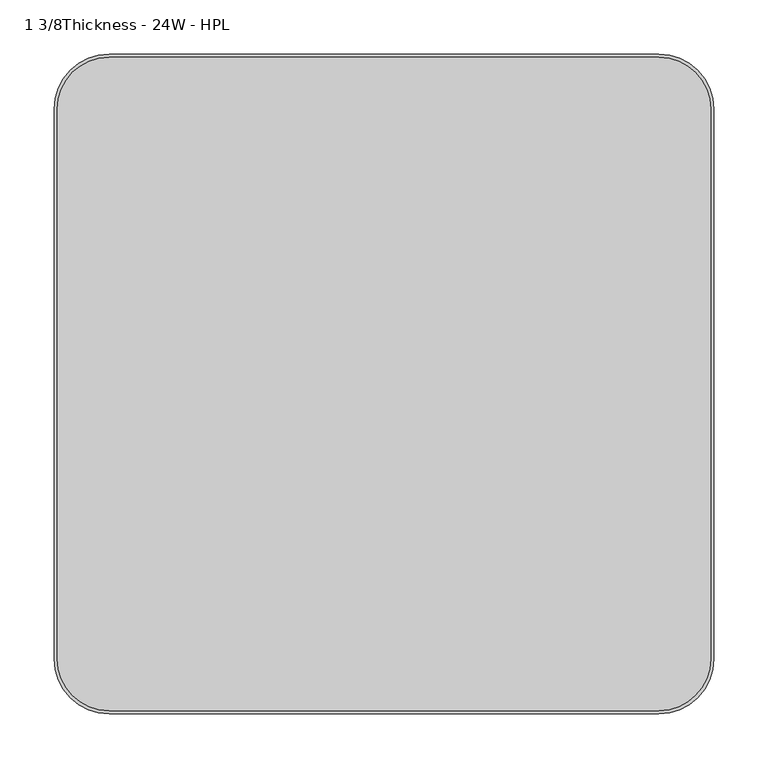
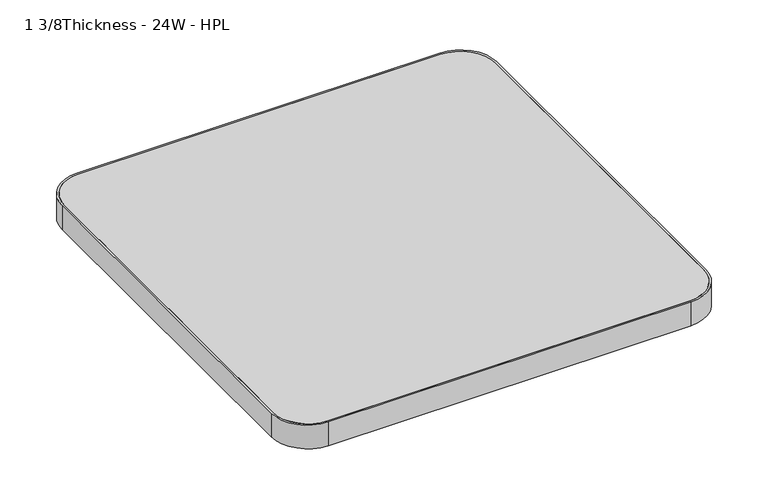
"""IFC4 building model written with IfcOpenShell, lengths in millimetres: furniture geometry, Steelcase - Groupwork - Table - Top - Square : 1 3/8Thickness - 24W - HPL."""

from ifc_helpers import new_model, si_unit, point, frame, frame_2d, origin, place, context, project, spatial, polyline, circle_curve, trimmed, segment, composite_curve, outline, extrude, source, transform, mapped, element, save


def furniture_1_3_8thickness_24w_hpl_7b9c1fa5(model_context):
    return source(origin(), model_context, "Body", "SweptSolid", [
        extrude(outline(composite_curve([segment(polyline([(-282.448, 301.8), (225.648, 301.8)]), True, "CONTINUOUS"), segment(trimmed(circle_curve(frame_2d((225.648, 254.048)), 47.752), [point((225.648, 301.8))], [point((273.4, 254.048))], False, "CARTESIAN"), True, "CONTINUOUS"), segment(polyline([(273.4, 254.048), (273.4, -254.048)]), True, "CONTINUOUS"), segment(trimmed(circle_curve(frame_2d((225.648, -254.048)), 47.752), [point((273.4, -254.048))], [point((225.648, -301.8))], False, "CARTESIAN"), True, "CONTINUOUS"), segment(polyline([(225.648, -301.8), (-282.448, -301.8)]), True, "CONTINUOUS"), segment(trimmed(circle_curve(frame_2d((-282.448, -254.048)), 47.752), [point((-282.448, -301.8))], [point((-330.2, -254.048))], False, "CARTESIAN"), True, "CONTINUOUS"), segment(polyline([(-330.2, -254.048), (-330.2, 254.048)]), True, "CONTINUOUS"), segment(trimmed(circle_curve(frame_2d((-282.448, 254.048)), 47.752), [point((-330.2, 254.048))], [point((-282.448, 301.8))], False, "CARTESIAN"), True, "CONTINUOUS")], self_intersect=False)), frame((0.0, 0.0, 695.579), z_axis=(0.0, 0.0, 1.0), x_axis=(1.0, 0.0, 0.0)), (0.0, 0.0, 1.0), 35.052),
        extrude(outline(composite_curve([segment(trimmed(circle_curve(frame_2d((225.6, 254.0)), 50.8), [point((225.6, 304.8))], [point((276.4, 254.0))], False, "CARTESIAN"), True, "CONTINUOUS"), segment(polyline([(276.4, 254.0), (276.4, -254.0)]), True, "CONTINUOUS"), segment(trimmed(circle_curve(frame_2d((225.6, -254.0)), 50.8), [point((276.4, -254.0))], [point((225.6, -304.8))], False, "CARTESIAN"), True, "CONTINUOUS"), segment(polyline([(225.6, -304.8), (-282.4, -304.8)]), True, "CONTINUOUS"), segment(trimmed(circle_curve(frame_2d((-282.4, -254.0)), 50.8), [point((-282.4, -304.8))], [point((-333.2, -254.0))], False, "CARTESIAN"), True, "CONTINUOUS"), segment(polyline([(-333.2, -254.0), (-333.2, 254.0)]), True, "CONTINUOUS"), segment(trimmed(circle_curve(frame_2d((-282.4, 254.0)), 50.8), [point((-333.2, 254.0))], [point((-282.4, 304.8))], False, "CARTESIAN"), True, "CONTINUOUS"), segment(polyline([(-282.4, 304.8), (225.6, 304.8)]), True, "CONTINUOUS")], self_intersect=False), holes=[composite_curve([segment(polyline([(225.648, 301.8), (-282.448, 301.8)]), True, "CONTINUOUS"), segment(trimmed(circle_curve(frame_2d((-282.448, 254.048)), 47.752), [point((-282.448, 301.8))], [point((-330.2, 254.048))], True, "CARTESIAN"), True, "CONTINUOUS"), segment(polyline([(-330.2, 254.048), (-330.2, -254.048)]), True, "CONTINUOUS"), segment(trimmed(circle_curve(frame_2d((-282.448, -254.048)), 47.752), [point((-330.2, -254.048))], [point((-282.448, -301.8))], True, "CARTESIAN"), True, "CONTINUOUS"), segment(polyline([(-282.448, -301.8), (225.648, -301.8)]), True, "CONTINUOUS"), segment(trimmed(circle_curve(frame_2d((225.648, -254.048)), 47.752), [point((225.648, -301.8))], [point((273.4, -254.048))], True, "CARTESIAN"), True, "CONTINUOUS"), segment(polyline([(273.4, -254.048), (273.4, 254.048)]), True, "CONTINUOUS"), segment(trimmed(circle_curve(frame_2d((225.648, 254.048)), 47.752), [point((273.4, 254.048))], [point((225.648, 301.8))], True, "CARTESIAN"), True, "CONTINUOUS")], self_intersect=False)]), frame((0.0, 0.0, 695.579), z_axis=(0.0, 0.0, 1.0), x_axis=(1.0, 0.0, 0.0)), (0.0, 0.0, 1.0), 35.052),
    ])


if __name__ == "__main__":
    model = new_model("IFC4")
    model_context = context("Model", 3, world=origin())
    ifc_project = project(units=[si_unit("LENGTHUNIT", "METRE", prefix="MILLI")], contexts=[model_context])
    site = spatial("IfcSite", under=ifc_project)
    building = spatial("IfcBuilding", under=site)
    placement = place(None, origin())
    furniture_1_3_8thickness_24w_hpl_shape = furniture_1_3_8thickness_24w_hpl_7b9c1fa5(model_context)
    element("IfcFurniture", 1, ObjectType="Steelcase - Groupwork - Table - Top - Square : 1 3/8Thickness - 24W - HPL", at=placement, inside=building, context=model_context, shape_type="MappedRepresentation", body=[
        mapped(furniture_1_3_8thickness_24w_hpl_shape, transform((0.0, 0.0, 0.0), x_axis=(1.0, 0.0, 0.0), y_axis=(0.0, 1.0, 0.0), z_axis=(0.0, 0.0, 1.0))),
    ])
    save(model, "model.ifc")
